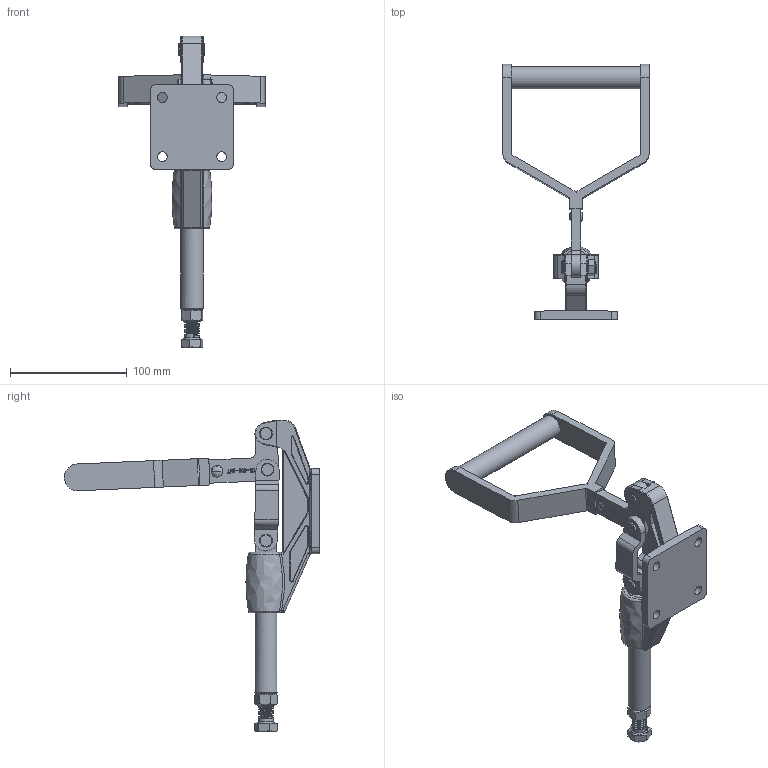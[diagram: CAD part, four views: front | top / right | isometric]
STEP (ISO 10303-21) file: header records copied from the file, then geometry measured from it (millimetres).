
FILE_DESCRIPTION(/* description */ ('STEP AP203'),/* implementation_level */ '2;1');
FILE_NAME(/* name */ 'D:\Vault_2016\Projekty\STRONA\Push-pull clamp\CH-305-HMY\CH-305-HMY_ZAMKNIETY.stp',/* time_stamp */ '2019-01-10T14:56:22+01:00',/* author */ ('user'),/* organization */ ('Î¢ÈíÖÐ¹ú'),/* preprocessor_version */ 'ST-DEVELOPER v17.2',/* originating_system */ 'Autodesk Inventor 2019',/* authorisation */ '');
FILE_SCHEMA (('AUTOMOTIVE_DESIGN { 1 0 10303 214 3 1 1 }'));
Products named in the file (13): CH-305-HMY_ZAMKNIETY; CH-304-HM-01 BASE; CH-304-HM-02 CREST STALK; CH-304-HM-07; CH-304-HM-04 CONNECTING-PLATE; 304-05; CH-304-HM-06; 5-16 LOCK NUT; M12 Nut; CH-SA-125017 SPINDLE SUPPLIED; CH-305-HMY HANDLE; CH-305-HMY-06; CH-305-HMY-087
Assembly tree (16 placements, depth 2):
  CH-305-HMY_ZAMKNIETY
    CH-304-HM-01 BASE
    CH-304-HM-02 CREST STALK
    CH-304-HM-07  x2
    CH-304-HM-04 CONNECTING-PLATE  x2
    CH-304-HM-06  x2
    304-05
    5-16 LOCK NUT  x2
    M12 Nut
    CH-SA-125017 SPINDLE SUPPLIED
    CH-305-HMY HANDLE
    CH-305-HMY-06
    CH-305-HMY-087
Bounding box: 125.4 x 219 x 267.38 mm (x, y, z)
Volume: 266091.1 mm3; surface area: 137270.3 mm2
Topology: 16 solids, 17 shells, 2452 faces, 6483 edges, 4106 vertices
Faces by surface type: plane 1477, cylinder 691, bspline 217, cone 38, torus 26, sphere 3
Full cylindrical faces by diameter (mm): 2.617 x1, 3.283 x1, 6.034 x2, 6.4 x2, 6.5 x8, 8 x22, 8.3 x4, 10.5 x38, 11 x5, 11.5 x2, 12.7 x22, 16 x7, 19 x2, 19.2 x2
Entity records: 87630 total; most frequent: CARTESIAN_POINT 46967, ORIENTED_EDGE 8780, DIRECTION 7904, EDGE_CURVE 4390, VERTEX_POINT 2818, AXIS2_PLACEMENT_3D 2663, LINE 2578, VECTOR 2578
